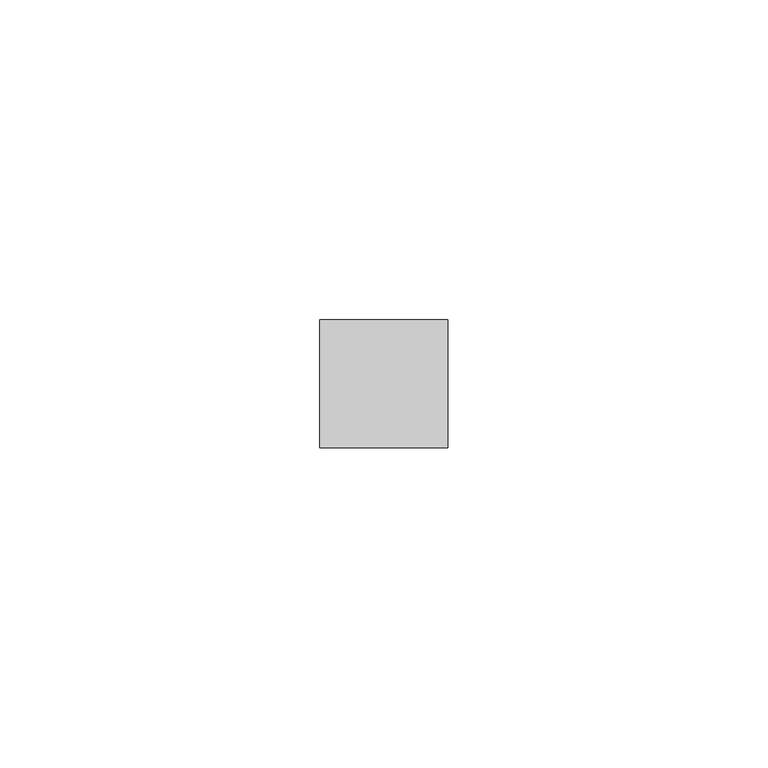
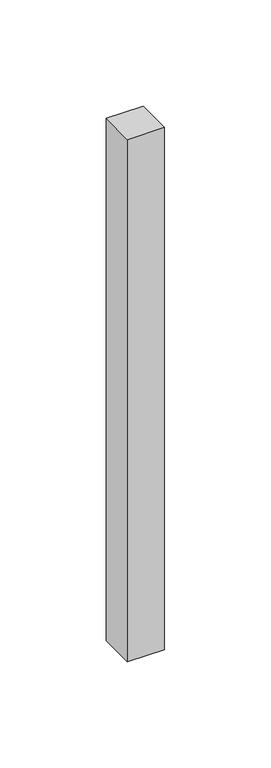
"""IFC4 building model written with IfcOpenShell, lengths in millimetres: member geometry, 矩形竖梃 : 20mm 正方形."""

from ifc_helpers import new_model, si_unit, frame, origin, place, context, project, spatial, polyline, outline, extrude, source, transform, mapped, element, save


def member_981c0da2(model_context):
    return source(origin(), model_context, "Body", "SweptSolid", [
        extrude(outline(polyline([(10.0, 10.0), (10.0, -10.0), (-10.0, -10.0), (-10.0, 10.0), (10.0, 10.0)])), frame((0.0, 0.0, -300.0), z_axis=(0.0, 0.0, 1.0), x_axis=(1.0, 0.0, 0.0)), (0.0, 0.0, 1.0), 300.0),
    ])


if __name__ == "__main__":
    model = new_model("IFC4")
    model_context = context("Model", 3, world=origin())
    ifc_project = project(units=[si_unit("LENGTHUNIT", "METRE", prefix="MILLI")], contexts=[model_context])
    site = spatial("IfcSite", under=ifc_project)
    building = spatial("IfcBuilding", under=site)
    placement = place(None, origin())
    member_shape = member_981c0da2(model_context)
    element("IfcMember", 1, ObjectType="矩形竖梃 : 20mm 正方形", at=placement, inside=building, context=model_context, shape_type="MappedRepresentation", body=[
        mapped(member_shape, transform((0.0, 0.0, 0.0), x_axis=(1.0, 0.0, 0.0), y_axis=(0.0, 1.0, 0.0), z_axis=(0.0, 0.0, 1.0))),
    ])
    save(model, "model.ifc")
